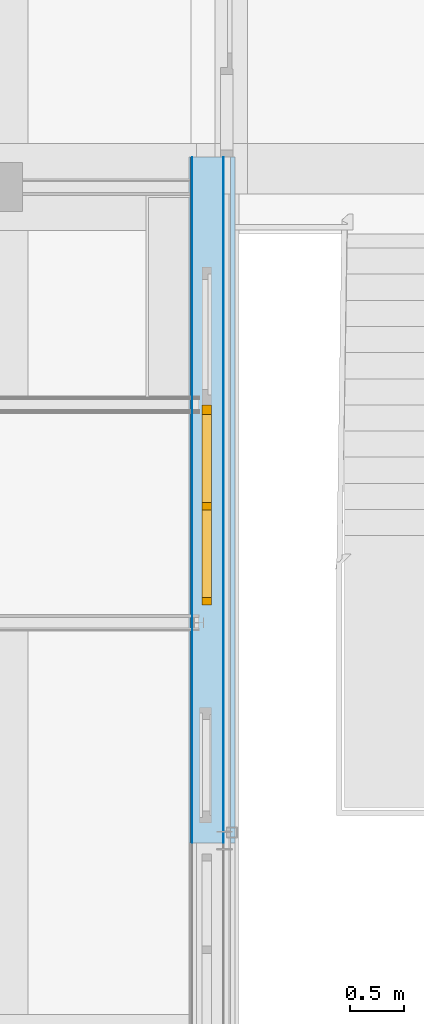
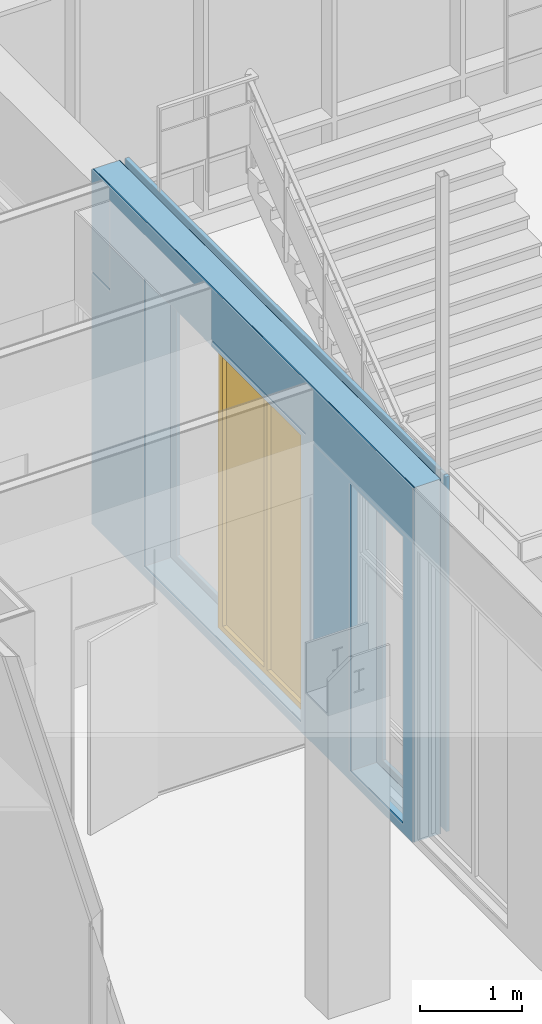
# One storey, part 74 of 94: 4 building element parts, 1 window, 3 openings, 1 element without a shape of its own, plus 3 elements that do not belong to this part.
"""IFC2X3 building model written with IfcOpenShell, lengths in millimetres."""

from ifc_helpers import new_model, entity, si_unit, converted_unit, derived_unit, money_unit, direction, frame, origin_with_axes, place, context, subcontext, project, spatial, open_shell, faceted_brep, surface_model, material, type_object, element, fill, aggregate, save


model = new_model("IFC2X3")

# Units and contexts
model_context = context("Model", 3, precision=0.01, world=origin_with_axes(), true_north=direction((0.0, 1.0)))
body_context = subcontext(model_context, "Body", "Model", "MODEL_VIEW")
ifc_project = project(units=[si_unit("LENGTHUNIT", "METRE", prefix="MILLI"), si_unit("AREAUNIT", "SQUARE_METRE"), si_unit("VOLUMEUNIT", "CUBIC_METRE"), converted_unit("PLANEANGLEUNIT", "DEGREE", entity("IfcPlaneAngleMeasure", 0.0174532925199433), si_unit("PLANEANGLEUNIT", "RADIAN"), dimensions=[0, 0, 0, 0, 0, 0, 0]), money_unit("EUR"), converted_unit("TIMEUNIT", "Year", entity("IfcTimeMeasure", 31557600.0), si_unit("TIMEUNIT", "SECOND"), dimensions=[0, 0, 1, 0, 0, 0, 0]), si_unit("MASSUNIT", "GRAM", prefix="KILO"), si_unit("THERMODYNAMICTEMPERATUREUNIT", "DEGREE_CELSIUS"), si_unit("LUMINOUSINTENSITYUNIT", "LUMEN"), si_unit("ENERGYUNIT", "JOULE", prefix="MEGA"), derived_unit("THERMALCONDUCTANCEUNIT", [(si_unit("POWERUNIT", "WATT"), 1), (si_unit("LENGTHUNIT", "METRE"), -1), (si_unit("THERMODYNAMICTEMPERATUREUNIT", "KELVIN"), -1)]), derived_unit("SPECIFICHEATCAPACITYUNIT", [(si_unit("ENERGYUNIT", "JOULE"), 1), (si_unit("MASSUNIT", "GRAM", prefix="KILO"), -1), (si_unit("THERMODYNAMICTEMPERATUREUNIT", "KELVIN"), -1)]), derived_unit("MASSDENSITYUNIT", [(si_unit("MASSUNIT", "GRAM", prefix="KILO"), 1), (si_unit("VOLUMEUNIT", "CUBIC_METRE"), -1)])], contexts=[model_context])

# Site, building, storey
site_placement = place(None, origin_with_axes())
site = spatial("IfcSite", under=ifc_project, at=site_placement, Name="<site naam>", CompositionType="ELEMENT")
building_placement = place(site_placement, origin_with_axes())
building = spatial("IfcBuilding", under=site, at=building_placement, Name="<Naam gebouw>", CompositionType="ELEMENT")
storey_placement = place(building_placement, frame((0.0, 0.0, 4250.0), z_axis=(0.0, 0.0, 1.0), x_axis=(1.0, 0.0, 0.0)))
storey = spatial("IfcBuildingStorey", under=building, at=storey_placement, Name="01 1e verdieping", CompositionType="ELEMENT", Elevation=4250.0)

# Window
window_style = type_object("IfcWindowStyle", Name="R2 bl ol 27", ConstructionType="NOTDEFINED", OperationType="DOUBLE_PANEL_VERTICAL", ParameterTakesPrecedence=False, Sizeable=False)
wall_placement = place(storey_placement, frame((4298.044439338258, 1978.357583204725, 0.0), z_axis=(0.0, 0.0, 1.0), x_axis=(0.0, 1.0, 0.0)))
opening_3_placement = place(wall_placement, frame((3103.623794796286, 0.0, 102.9999634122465), z_axis=(0.0, 0.0, 1.0), x_axis=(1.0, 0.0, 0.0)))
window_placement = place(opening_3_placement, frame((-918.5000652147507, 0.0, 0.0), z_axis=(0.0, 0.0, 1.0), x_axis=(1.0, 0.0, 0.0)))
window = element("IfcWindow", 1, at=window_placement, inside=storey, type_object=window_style, Name="21_BU-A-15a_305", ObjectType="WINDOW", OverallHeight=3454.0, OverallWidth=1837.0, context=body_context, shape_type="SurfaceModel", body=[
    faceted_brep([(67.00000000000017, 213.0000000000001, 3387.0), (67.00000000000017, 299.9999999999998, 3387.0), (0.0, 299.9999999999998, 3387.0), (0.0, 213.0000000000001, 3387.0), (67.00000000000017, 213.0000000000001, 67.00000000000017), (67.00000000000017, 299.9999999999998, 67.00000000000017), (0.0, 299.9999999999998, 67.00000000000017), (0.0, 213.0000000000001, 67.00000000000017)], [[[0, 1, 2, 3]], [[4, 5, 1, 0]], [[1, 5, 6, 2]], [[3, 2, 6, 7]], [[0, 3, 7, 4]], [[7, 6, 5, 4]]]),
    faceted_brep([(1747.000130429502, 213.0000000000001, 67.00000000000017), (1747.000130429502, 299.9999999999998, 67.00000000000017), (1837.000130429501, 299.9999999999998, 67.00000000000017), (1837.000130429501, 213.0000000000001, 67.00000000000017), (1747.000130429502, 212.9999999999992, 3387.0), (1747.000130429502, 299.9999999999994, 3387.0), (1837.000130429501, 299.9999999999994, 3387.0), (1837.000130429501, 212.9999999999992, 3387.0)], [[[0, 1, 2, 3]], [[4, 5, 1, 0]], [[1, 5, 6, 2]], [[3, 2, 6, 7]], [[0, 3, 7, 4]], [[7, 6, 5, 4]]]),
    faceted_brep([(873.5000652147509, 213.0000000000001, 67.00000000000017), (873.5000652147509, 299.9999999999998, 67.00000000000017), (940.5000652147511, 299.9999999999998, 67.00000000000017), (940.5000652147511, 213.0000000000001, 67.00000000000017), (873.5000652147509, 212.9999999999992, 3387.0), (873.5000652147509, 299.9999999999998, 3387.0), (940.5000652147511, 299.9999999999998, 3387.0), (940.5000652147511, 212.9999999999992, 3387.0)], [[[0, 1, 2, 3]], [[4, 5, 1, 0]], [[1, 5, 6, 2]], [[3, 2, 6, 7]], [[0, 3, 7, 4]], [[7, 6, 5, 4]]]),
    faceted_brep([(67.00000000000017, 213.0000000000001, 67.00000000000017), (67.00000000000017, 299.9999999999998, 67.00000000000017), (0.0, 299.9999999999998, 67.00000000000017), (0.0, 213.0000000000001, 67.00000000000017), (873.5000652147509, 213.0000000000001, 67.00000000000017), (873.5000652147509, 299.9999999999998, 67.00000000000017), (940.5000652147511, 299.9999999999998, 67.00000000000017), (1747.000130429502, 299.9999999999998, 67.00000000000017), (1837.000130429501, 299.9999999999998, 67.00000000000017), (1837.000130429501, 299.9999999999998, 0.0), (0.0, 299.9999999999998, 0.0), (0.0, 213.0000000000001, 0.0), (1837.000130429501, 213.0000000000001, 0.0), (1837.000130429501, 213.0000000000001, 67.00000000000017), (1747.000130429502, 213.0000000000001, 67.00000000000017), (940.5000652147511, 213.0000000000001, 67.00000000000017)], [[[0, 1, 2, 3]], [[4, 5, 1, 0]], [[1, 5, 6, 7, 8, 9, 10, 2]], [[3, 2, 10, 11]], [[0, 3, 11, 12, 13, 14, 15, 4]], [[15, 6, 5, 4]], [[14, 7, 6, 15]], [[13, 8, 7, 14]], [[12, 9, 8, 13]], [[11, 10, 9, 12]]]),
    faceted_brep([(873.5000652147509, 212.9999999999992, 3387.0), (873.5000652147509, 299.9999999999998, 3387.0), (940.5000652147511, 299.9999999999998, 3387.0), (940.5000652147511, 212.9999999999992, 3387.0), (67.00000000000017, 213.0000000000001, 3387.0), (67.00000000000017, 299.9999999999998, 3387.0), (0.0, 299.9999999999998, 3387.0), (0.0, 299.9999999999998, 3454.0), (1837.000130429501, 299.9999999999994, 3454.0), (1837.000130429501, 299.9999999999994, 3387.0), (1747.000130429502, 299.9999999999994, 3387.0), (1747.000130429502, 212.9999999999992, 3387.0), (1837.000130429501, 212.9999999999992, 3387.0), (1837.000130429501, 212.9999999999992, 3454.0), (0.0, 213.0000000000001, 3454.0), (0.0, 213.0000000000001, 3387.0)], [[[0, 1, 2, 3]], [[4, 5, 1, 0]], [[1, 5, 6, 7, 8, 9, 10, 2]], [[3, 2, 10, 11]], [[0, 3, 11, 12, 13, 14, 15, 4]], [[15, 6, 5, 4]], [[14, 7, 6, 15]], [[13, 8, 7, 14]], [[12, 9, 8, 13]], [[11, 10, 9, 12]]]),
    surface_model("IfcShellBasedSurfaceModel", [(67.00000000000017, 235.9999999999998, 67.00000000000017), (873.5000652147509, 235.9999999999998, 67.00000000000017), (873.5000652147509, 235.9999999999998, 3387.0), (67.00000000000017, 235.9999999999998, 3387.0)], [open_shell([[[0, 1, 2, 3]]])]),
    surface_model("IfcShellBasedSurfaceModel", [(67.00000000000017, 256.0000000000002, 67.00000000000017), (67.00000000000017, 255.9999999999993, 3387.0), (873.5000652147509, 255.9999999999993, 3387.0), (873.5000652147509, 256.0000000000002, 67.00000000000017)], [open_shell([[[0, 1, 2, 3]]])]),
    surface_model("IfcShellBasedSurfaceModel", [(940.5000652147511, 235.9999999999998, 67.00000000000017), (1747.000130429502, 235.9999999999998, 67.00000000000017), (1747.000130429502, 235.9999999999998, 3387.0), (940.5000652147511, 235.9999999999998, 3387.0)], [open_shell([[[0, 1, 2, 3]]])]),
    surface_model("IfcShellBasedSurfaceModel", [(940.5000652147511, 256.0000000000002, 67.00000000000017), (940.5000652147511, 255.9999999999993, 3387.0), (1747.000130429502, 255.9999999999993, 3387.0), (1747.000130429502, 256.0000000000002, 67.00000000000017)], [open_shell([[[0, 1, 2, 3]]])]),
])

# Wall, openings
wall_type = type_object("IfcWallType", Name="HSB_285 gevelbeplating 420", PredefinedType="NOTDEFINED")
wall = element("IfcWall", 2, at=wall_placement, inside=storey, type_object=wall_type, Name="21_Binnenwand_HSB_285")
opening_1_placement = place(wall_placement, frame((713.9261455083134, 0.0, 102.9999634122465), z_axis=(0.0, 0.0, 1.0), x_axis=(1.0, 0.0, 0.0)))
element("IfcOpeningElement", 3, at=opening_1_placement, cuts=wall, Name="21_BU-A-14b_305", context=body_context, shape_type="Brep", body=[
    faceted_brep([(530.241847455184, 213.0000000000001, 0.0), (530.241847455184, 213.0000000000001, 3454.0), (530.241847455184, -1.000000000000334, 3454.0), (530.241847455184, -1.000000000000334, 0.0), (530.241847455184, 420.9999999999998, 0.0), (530.241847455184, 421.0000000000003, 3454.0), (-530.241847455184, 213.0000000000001, 3454.0), (-530.241847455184, -1.000000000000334, 3454.0), (-530.241847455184, -1.000000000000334, 0.0), (-530.241847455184, 213.0000000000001, 0.0), (-530.241847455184, 420.9999999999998, 0.0), (-530.241847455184, 421.0000000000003, 3454.0)], [[[0, 1, 2, 3]], [[1, 0, 4, 5]], [[1, 6, 7, 2]], [[7, 8, 3, 2]], [[9, 0, 3, 8]], [[0, 9, 10, 4]], [[5, 4, 10, 11]], [[6, 1, 5, 11]], [[6, 9, 8, 7]], [[9, 6, 11, 10]]]),
])
opening_2_placement = place(wall_placement, frame((4655.223789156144, 0.0, 102.9999634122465), z_axis=(0.0, 0.0, 1.0), x_axis=(1.0, 0.0, 0.0)))
element("IfcOpeningElement", 4, at=opening_2_placement, cuts=wall, Name="21_BU-A-15b_305", context=body_context, shape_type="Brep", body=[
    faceted_brep([(633.4999291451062, 213.0000000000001, 0.0), (633.4999291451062, 213.0000000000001, 3454.0), (633.4999291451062, -1.000000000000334, 3454.0), (633.4999291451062, -1.000000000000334, 0.0), (633.4999291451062, 420.9999999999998, 0.0), (633.4999291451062, 420.9999999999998, 3454.0), (-633.4999291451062, 213.0000000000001, 3454.0), (-633.4999291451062, -1.000000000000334, 3454.0), (-633.4999291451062, -1.000000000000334, 0.0), (-633.4999291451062, 213.0000000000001, 0.0), (-633.4999291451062, 420.9999999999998, 0.0), (-633.4999291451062, 420.9999999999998, 3454.0)], [[[0, 1, 2, 3]], [[1, 0, 4, 5]], [[1, 6, 7, 2]], [[7, 8, 3, 2]], [[9, 0, 3, 8]], [[0, 9, 10, 4]], [[5, 4, 10, 11]], [[6, 1, 5, 11]], [[6, 9, 8, 7]], [[9, 6, 11, 10]]]),
])
opening_3 = element("IfcOpeningElement", 5, at=opening_3_placement, cuts=wall, Name="21_BU-A-15a_305", context=body_context, shape_type="Brep", body=[
    faceted_brep([(918.5000652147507, 213.0000000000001, 0.0), (918.5000652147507, 213.0000000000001, 3454.0), (918.5000652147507, -1.000000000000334, 3454.0), (918.5000652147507, -1.000000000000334, 0.0), (918.5000652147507, 420.9999999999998, 0.0), (918.5000652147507, 420.9999999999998, 3454.0), (-918.5000652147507, 213.0000000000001, 3454.0), (-918.5000652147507, -1.000000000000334, 3454.0), (-918.5000652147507, -1.000000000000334, 0.0), (-918.5000652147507, 213.0000000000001, 0.0), (-918.5000652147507, 420.9999999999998, 0.0), (-918.5000652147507, 420.9999999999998, 3454.0)], [[[0, 1, 2, 3]], [[1, 0, 4, 5]], [[1, 6, 7, 2]], [[7, 8, 3, 2]], [[9, 0, 3, 8]], [[0, 9, 10, 4]], [[5, 4, 10, 11]], [[6, 1, 5, 11]], [[6, 9, 8, 7]], [[9, 6, 11, 10]]]),
])

fill(opening_3, window)

# Building element part
ifc_material_1 = material(Name="hout_OSB")
building_element_part_1_placement = place(wall_placement, origin_with_axes())
building_element_part_1 = element("IfcBuildingElementPart", 6, at=building_element_part_1_placement, material=ifc_material_1, Name="hout_OSB", context=body_context, shape_type="Brep", body=[
    faceted_brep([(3946.642385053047, 392.5000000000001, 3.000000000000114), (3946.642385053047, 392.5000000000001, 0.0), (4096.642347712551, 392.5000000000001, 0.0), (4096.642347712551, 392.500000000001, 3.000000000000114), (6296.805043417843, 392.5000000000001, 3.000000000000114), (6296.805043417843, 392.5000000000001, 4250.0), (0.0, 392.5000000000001, 4250.0), (0.0, 392.5000000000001, 3.000000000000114), (3946.642385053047, 407.5000000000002, 3.000000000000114), (3946.642385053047, 407.4999999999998, 0.0), (4096.642347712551, 407.4999999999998, 0.0), (4096.642347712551, 407.5000000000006, 3.000000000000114), (6296.805043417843, 407.4999999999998, 3.000000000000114), (6296.805043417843, 407.5000000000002, 4250.0), (0.0, 407.5000000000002, 4250.0), (0.0, 407.4999999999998, 3.000000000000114)], [[[0, 1, 2, 3, 4, 5, 6, 7]], [[1, 0, 8, 9]], [[1, 9, 10, 2]], [[3, 2, 10, 11]], [[12, 4, 3, 11]], [[4, 12, 13, 5]], [[6, 5, 13, 14]], [[15, 7, 6, 14]], [[0, 7, 15, 8]], [[8, 15, 14, 13, 12, 11, 10, 9]]]),
])

ifc_material_2 = material(Name="gipsplaat")
building_element_part_2_placement = place(wall_placement, origin_with_axes())
building_element_part_2 = element("IfcBuildingElementPart", 7, at=building_element_part_2_placement, material=ifc_material_2, Name="gipsplaat", context=body_context, shape_type="Brep", body=[
    faceted_brep([(5926.639104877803, 413.9999834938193, 3556.999963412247), (4096.642416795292, 413.9999834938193, 3556.999963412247), (4096.642416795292, 413.9999834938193, 4099.999999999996), (5946.642416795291, 413.9999943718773, 4099.999999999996), (5946.642416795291, 413.9999943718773, 3040.0), (5946.642416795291, 413.9999943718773, 3000.0), (5926.639104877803, 413.9999943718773, 3000.0), (5926.639104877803, 420.0000000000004, 3556.999963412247), (4096.642416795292, 420.0000000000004, 3556.999963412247), (4096.642416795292, 420.0000000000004, 4099.999999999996), (5946.642416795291, 420.0000000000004, 4099.999999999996), (5946.642416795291, 420.0000000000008, 3040.0), (5946.642416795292, 407.4999999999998, 3040.0), (5946.642416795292, 407.4999999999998, 3000.0), (5926.639104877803, 420.0000000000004, 3000.0), (6296.805043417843, 407.5000000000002, 3000.0), (6296.805043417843, 420.0000000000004, 3000.0), (6296.805043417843, 419.9999999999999, 3.000000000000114), (4096.642347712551, 419.9999999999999, 3.000000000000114), (4096.642347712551, 419.999999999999, 0.0), (3946.642385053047, 419.999999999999, 0.0), (3946.642385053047, 420.0000000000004, 3.000000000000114), (0.0, 419.9999999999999, 3.000000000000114), (0.0, 420.0000000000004, 3600.0), (1946.642422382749, 420.0000000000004, 3600.0), (1946.642422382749, 420.0000000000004, 3640.0), (0.0, 420.0000000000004, 3640.0), (0.0, 420.0000000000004, 4250.0), (6296.805043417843, 420.0000000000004, 4250.0), (6296.805043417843, 420.0000000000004, 3040.0), (2096.642457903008, 420.0000000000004, 3600.0), (3946.642367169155, 420.0000000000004, 3600.0), (3946.642367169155, 420.0000000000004, 3640.0), (2096.642457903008, 420.0000000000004, 3640.0), (6296.805043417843, 407.5000000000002, 3040.0), (6296.805043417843, 407.5000000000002, 4250.0), (0.0, 407.5000000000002, 4250.0), (0.0, 407.4999999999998, 3.000000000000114), (3946.642385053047, 407.4999999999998, 3.000000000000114), (3946.642385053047, 407.4999999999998, 0.0), (4096.642347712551, 407.4999999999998, 0.0), (4096.642347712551, 407.4999999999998, 3.000000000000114), (6296.805043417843, 407.4999999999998, 3.000000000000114), (2096.642457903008, 407.4999999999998, 3600.0), (2096.642457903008, 407.5000000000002, 3640.0), (3946.642367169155, 407.4999999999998, 3640.0), (3946.642367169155, 407.5000000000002, 3600.0), (0.0, 414.0000118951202, 3640.0), (0.0, 414.0000118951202, 3600.0), (1946.642422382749, 414.0000118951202, 3600.0), (1946.642422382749, 414.0000118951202, 3640.0)], [[[0, 1, 2, 3, 4, 5, 6]], [[0, 7, 8, 1]], [[8, 9, 2, 1]], [[3, 2, 9, 10]], [[11, 4, 3, 10]], [[5, 4, 12, 13]], [[14, 6, 5, 13, 15, 16]], [[7, 0, 6, 14]], [[8, 7, 14, 16, 17, 18, 19, 20, 21, 22, 23, 24, 25, 26, 27, 28, 29, 11, 10, 9], [30, 31, 32, 33]], [[4, 11, 29, 34, 12]], [[13, 12, 34, 35, 36, 37, 38, 39, 40, 41, 42, 15], [43, 44, 45, 46]], [[16, 15, 42, 17]], [[17, 42, 41, 18]], [[41, 40, 19, 18]], [[39, 20, 19, 40]], [[39, 38, 21, 20]], [[38, 37, 22, 21]], [[22, 37, 36, 27, 26, 47, 48, 23]], [[23, 48, 49, 24]], [[25, 24, 49, 50]], [[47, 26, 25, 50]], [[36, 35, 28, 27]], [[34, 29, 28, 35]], [[43, 46, 31, 30]], [[46, 45, 32, 31]], [[45, 44, 33, 32]], [[44, 43, 30, 33]], [[48, 47, 50, 49]]]),
])

ifc_material_3 = material(Name="folie_dampdicht")
building_element_part_3_placement = place(wall_placement, origin_with_axes())
building_element_part_3 = element("IfcBuildingElementPart", 8, at=building_element_part_3_placement, material=ifc_material_3, Name="folie_dampdicht", context=body_context, shape_type="Brep", body=[
    faceted_brep([(3946.642385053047, 391.9999999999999, 3.000000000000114), (3946.642385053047, 391.9999999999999, 0.0), (4096.642347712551, 391.9999999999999, 0.0), (4096.642347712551, 391.9999999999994, 3.000000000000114), (6296.805043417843, 391.9999999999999, 3.000000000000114), (6296.805043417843, 392.0000000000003, 4250.0), (0.0, 392.0000000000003, 4250.0), (0.0, 391.9999999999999, 3.000000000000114), (3946.642385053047, 392.5000000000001, 3.000000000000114), (3946.642385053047, 392.500000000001, 0.0), (4096.642347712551, 392.500000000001, 0.0), (4096.642347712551, 392.500000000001, 3.000000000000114), (6296.805043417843, 392.5000000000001, 3.000000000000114), (6296.805043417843, 392.5000000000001, 4250.0), (0.0, 392.5000000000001, 4250.0), (0.0, 392.5000000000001, 3.000000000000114)], [[[0, 1, 2, 3, 4, 5, 6, 7]], [[1, 0, 8, 9]], [[1, 9, 10, 2]], [[3, 2, 10, 11]], [[12, 4, 3, 11]], [[4, 12, 13, 5]], [[6, 5, 13, 14]], [[15, 7, 6, 14]], [[0, 7, 15, 8]], [[8, 15, 14, 13, 12, 11, 10, 9]]]),
])

ifc_material_4 = material(Name="isolatie_houtvezel")
building_element_part_4_placement = place(wall_placement, origin_with_axes())
building_element_part_4 = element("IfcBuildingElementPart", 9, at=building_element_part_4_placement, material=ifc_material_4, Name="isolatie_houtvezel", context=body_context, shape_type="Brep", body=[
    faceted_brep([(1971.64241665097, 290.5444418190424, 0.0), (1971.64241670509, 282.5444393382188, 0.0), (2071.64241688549, 282.5444393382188, 0.0), (2071.642416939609, 290.5444418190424, 0.0), (2024.142416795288, 290.5444418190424, 0.0), (2024.142416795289, 327.9999864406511, 0.0), (3946.642385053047, 327.9999864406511, 0.0), (3946.642385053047, 391.9999999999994, 0.0), (4096.642347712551, 391.9999999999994, 0.0), (4096.642347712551, 107.0000000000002, 0.0), (0.0, 107.0000000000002, 0.0), (0.0, 327.9999864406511, 0.0), (2019.142416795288, 327.9999864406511, 0.0), (2019.142416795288, 290.5444418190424, 0.0), (1971.64241665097, 290.5444418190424, 3789.999753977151), (1971.64241670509, 282.5444393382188, 3789.999753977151), (2071.64241688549, 282.5444393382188, 3789.999753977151), (2071.642416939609, 290.5444418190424, 3789.999753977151), (2024.142416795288, 290.5444418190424, 3789.999753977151), (2024.142416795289, 370.5444377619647, 3789.999753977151), (2024.142416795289, 370.5444377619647, 3.000000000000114), (2024.142417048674, 327.9999864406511, 3.000000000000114), (3946.642385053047, 327.9999864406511, 3.000000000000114), (3946.642385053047, 392.0000000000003, 3.000000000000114), (0.0, 391.9999999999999, 3.000000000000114), (0.0, 392.0000000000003, 4250.0), (6296.805043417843, 392.0000000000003, 4250.0), (6296.805043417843, 391.9999999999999, 3.000000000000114), (4096.642347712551, 392.0000000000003, 3.000000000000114), (4096.642347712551, 107.0000000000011, 3.000000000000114), (6296.805043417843, 107.0000000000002, 3.000000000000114), (6296.805043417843, 107.0000000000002, 4250.0), (0.0, 107.0000000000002, 4250.0), (0.0, 327.9999864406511, 3.000000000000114), (2019.142416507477, 327.9999864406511, 3.000000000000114), (2019.142416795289, 370.5444377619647, 3.000000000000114), (2019.142416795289, 370.5444377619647, 3789.999753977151), (2019.142416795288, 290.5444418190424, 3789.999753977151), (2071.64241688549, 378.5444402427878, 3789.999753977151), (2071.642416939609, 370.5444377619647, 3789.999753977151), (1971.64241665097, 370.5444377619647, 3789.999753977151), (1971.64241670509, 378.5444402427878, 3789.999753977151), (2071.642416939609, 370.5444377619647, 3.000000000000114), (2071.64241688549, 378.5444402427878, 3.000000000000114), (1971.64241670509, 378.5444402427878, 3.000000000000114), (1971.64241665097, 370.5444377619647, 3.000000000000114)], [[[0, 1, 2, 3, 4, 5, 6, 7, 8, 9, 10, 11, 12, 13]], [[1, 0, 14, 15]], [[2, 1, 15, 16]], [[3, 2, 16, 17]], [[4, 3, 17, 18]], [[5, 4, 18, 19, 20, 21]], [[5, 21, 22, 6]], [[23, 7, 6, 22]], [[7, 23, 24, 25, 26, 27, 28, 8]], [[28, 29, 9, 8]], [[10, 9, 29, 30, 31, 32]], [[24, 33, 11, 10, 32, 25]], [[34, 12, 11, 33]], [[13, 12, 34, 35, 36, 37]], [[0, 13, 37, 14]], [[38, 39, 19, 18, 17, 16, 15, 14, 37, 36, 40, 41]], [[42, 20, 19, 39]], [[35, 34, 33, 24, 23, 22, 21, 20, 42, 43, 44, 45]], [[25, 32, 31, 26]], [[31, 30, 27, 26]], [[28, 27, 30, 29]], [[35, 45, 40, 36]], [[43, 42, 39, 38]], [[45, 44, 41, 40]], [[44, 43, 38, 41]]]),
])

ifc_material_5 = material(Name="brandwerende_bekleding")
building_element_part_5_placement = place(wall_placement, origin_with_axes())
building_element_part_5 = element("IfcBuildingElementPart", 10, at=building_element_part_5_placement, material=ifc_material_5, Name="brandwerende_bekleding", context=body_context, shape_type="Brep", body=[
    faceted_brep([(0.0, 102.5, 0.0), (4096.642347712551, 102.5, 0.0), (4096.642347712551, 102.5000000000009, 3.000000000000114), (6296.805043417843, 102.5, 3.000000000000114), (6296.805043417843, 102.5, 4250.0), (0.0, 102.5, 4250.0), (0.0, 107.0000000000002, 0.0), (4096.642347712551, 107.0000000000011, 0.0), (4096.642347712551, 107.0000000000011, 3.000000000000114), (6296.805043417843, 107.0000000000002, 3.000000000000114), (6296.805043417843, 107.0000000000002, 4250.0), (0.0, 107.0000000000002, 4250.0)], [[[0, 1, 2, 3, 4, 5]], [[6, 7, 1, 0]], [[8, 2, 1, 7]], [[8, 9, 3, 2]], [[4, 3, 9, 10]], [[11, 5, 4, 10]], [[5, 11, 6, 0]], [[9, 8, 7, 6, 11, 10]]]),
])

ifc_material_6 = material(Name="folie_dampopen")
building_element_part_6_placement = place(wall_placement, origin_with_axes())
building_element_part_6 = element("IfcBuildingElementPart", 11, at=building_element_part_6_placement, material=ifc_material_6, Name="folie_dampopen", context=body_context, shape_type="Brep", body=[
    faceted_brep([(0.0, 102.0000000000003, 0.0), (4096.642347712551, 102.0000000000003, 0.0), (4096.642347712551, 102.0000000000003, 3.000000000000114), (6296.805043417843, 102.0000000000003, 3.000000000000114), (6296.805043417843, 102.0000000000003, 4250.0), (0.0, 102.0000000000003, 4250.0), (0.0, 102.5, 0.0), (4096.642347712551, 102.5000000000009, 0.0), (4096.642347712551, 102.5000000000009, 3.000000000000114), (6296.805043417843, 102.5, 3.000000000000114), (6296.805043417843, 102.5, 4250.0), (0.0, 102.5, 4250.0)], [[[0, 1, 2, 3, 4, 5]], [[6, 7, 1, 0]], [[8, 2, 1, 7]], [[8, 9, 3, 2]], [[4, 3, 9, 10]], [[11, 5, 4, 10]], [[5, 11, 6, 0]], [[9, 8, 7, 6, 11, 10]]]),
])

ifc_material_7 = material(Name="metaal - Aluminium gevelplaat")
building_element_part_7_placement = place(wall_placement, origin_with_axes())
building_element_part_7 = element("IfcBuildingElementPart", 12, at=building_element_part_7_placement, material=ifc_material_7, Name="metaal - Aluminium gevelplaat", context=body_context, shape_type="Brep", body=[
    faceted_brep([(45.66544129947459, 0.0, 0.0), (45.66544129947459, 0.0, 4250.0), (0.0, 0.0, 4250.0), (0.0, 0.0, 0.0), (45.66544129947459, 40.00000000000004, 4250.0), (45.66544129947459, 40.00000000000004, 0.0), (0.0, 40.00000000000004, 4250.0), (0.0, 40.00000000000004, 0.0)], [[[0, 1, 2, 3]], [[4, 1, 0, 5]], [[1, 4, 6, 2]], [[2, 6, 7, 3]], [[5, 0, 3, 7]], [[4, 5, 7, 6]]]),
    faceted_brep([(137.665441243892, 0.0, 4250.0), (137.665441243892, 40.00000000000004, 4250.0), (53.66544137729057, 40.00000000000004, 4250.0), (53.66544137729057, 0.0, 4250.0), (137.665441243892, 0.0, 0.0), (137.665441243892, 40.00000000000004, 0.0), (53.66544137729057, 40.00000000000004, 0.0), (53.66544137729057, 0.0, 0.0)], [[[0, 1, 2, 3]], [[1, 0, 4, 5]], [[1, 5, 6, 2]], [[7, 3, 2, 6]], [[4, 0, 3, 7]], [[5, 4, 7, 6]]]),
    faceted_brep([(145.665441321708, 40.00000000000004, 4250.0), (145.665441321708, 0.0, 4250.0), (6296.805043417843, 0.0, 4250.0), (6296.805043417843, 40.00000000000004, 4250.0), (145.665441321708, 0.0, 0.0), (145.665441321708, 40.00000000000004, 0.0), (5593.177306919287, 0.0, 0.0), (5593.177306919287, 0.0, 3.000000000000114), (6296.805043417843, 0.0, 3.000000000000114), (6296.805043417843, 40.00000000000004, 3.000000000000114), (4096.642347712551, 39.99999999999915, 3.000000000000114), (4096.642347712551, 40.00000000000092, 0.0), (4096.642347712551, 28.00017981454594, 0.0), (5593.177306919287, 28.00017981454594, 0.0), (5593.177306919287, 28.00017981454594, 3.000000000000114), (4096.642347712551, 28.00017981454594, 3.000000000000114)], [[[0, 1, 2, 3]], [[4, 1, 0, 5]], [[1, 4, 6, 7, 8, 2]], [[8, 9, 3, 2]], [[5, 0, 3, 9, 10, 11]], [[4, 5, 11, 12, 13, 6]], [[6, 13, 14, 7]], [[7, 14, 15, 10, 9, 8]], [[15, 12, 11, 10]], [[15, 14, 13, 12]]]),
])

aggregate(wall, [building_element_part_1, building_element_part_2, building_element_part_3, building_element_part_4, building_element_part_5, building_element_part_6, building_element_part_7])

save(model, "model.ifc")
